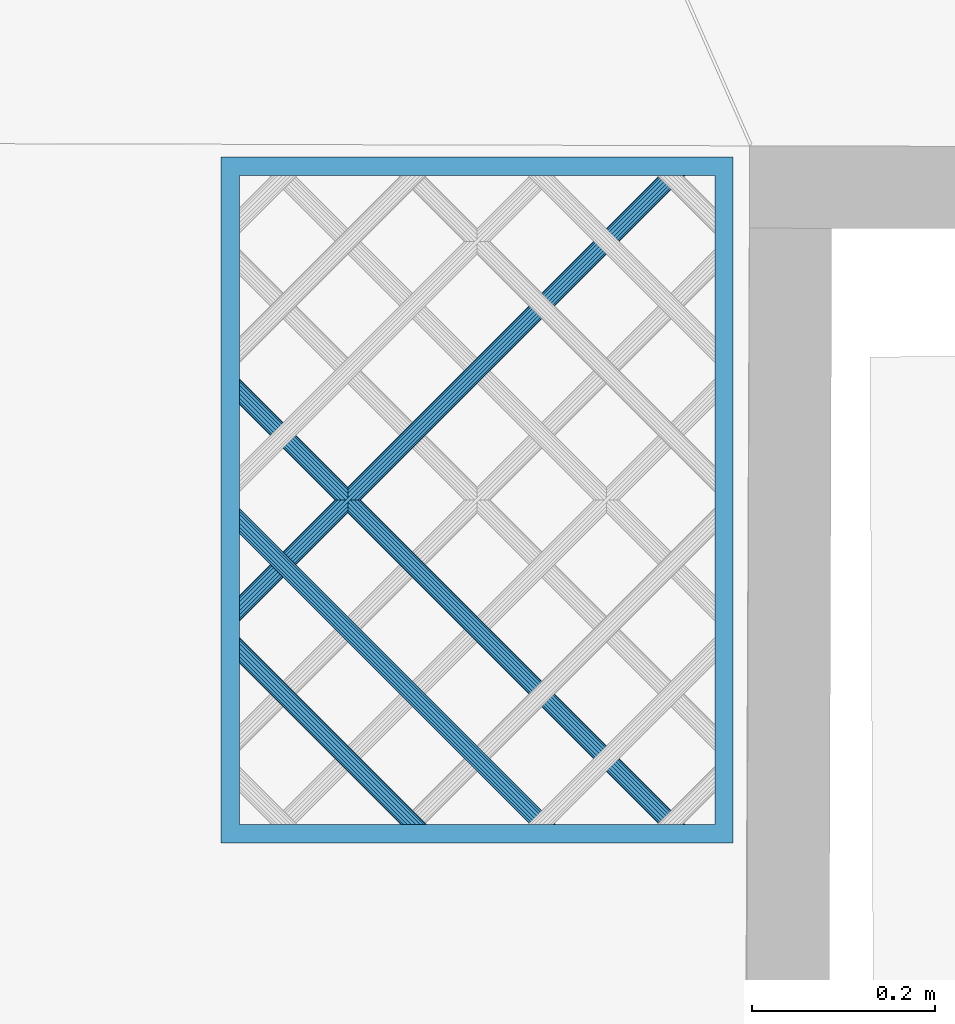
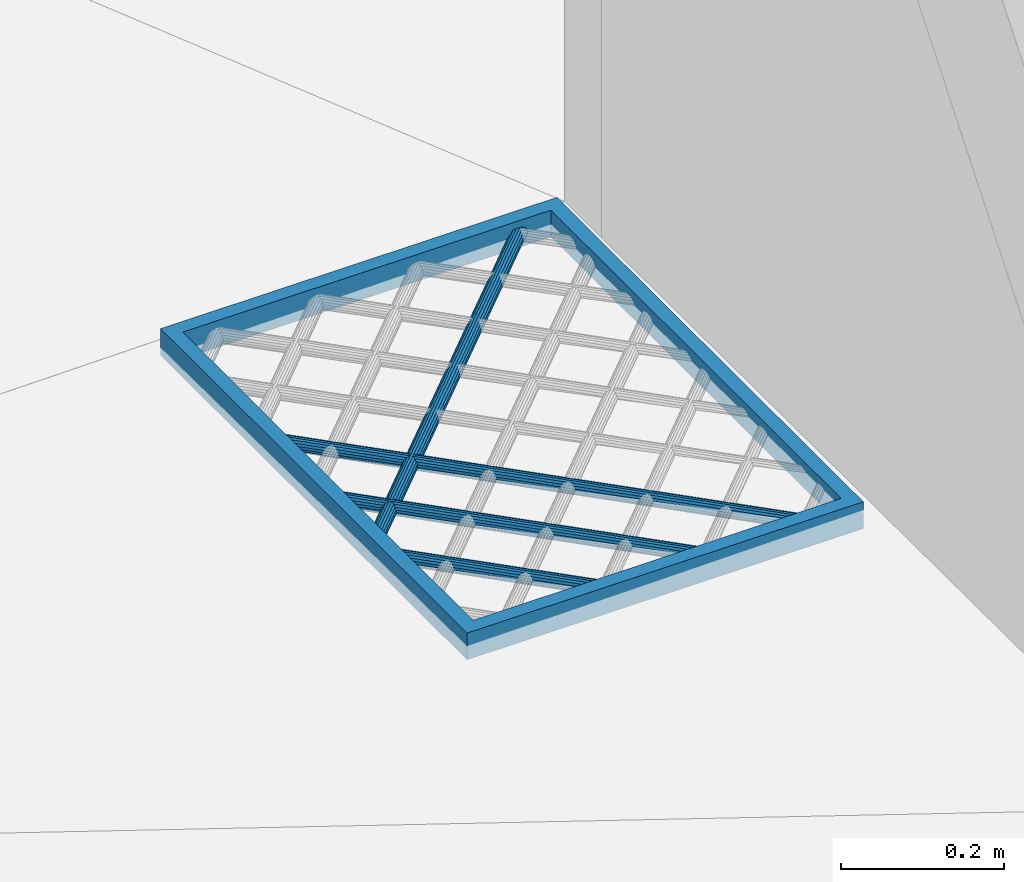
# One storey, part 52 of 133: 5 members, 1 element without a shape of its own.
"""IFC2X3 building model written with IfcOpenShell, lengths in centimetres."""

from ifc_helpers import new_model, entity, si_unit, converted_unit, direction, frame, origin, origin_with_axes, place, context, subcontext, project, spatial, faceted_brep, material, type_object, element, aggregate, save


model = new_model("IFC2X3")

# Units and contexts
model_context = context("Model", 3, precision=0.0001, world=origin(), true_north=direction((0.225632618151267, 0.974212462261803, 0.0)))
body_context = subcontext(model_context, "Body", "Model", "MODEL_VIEW")
ifc_project = project(units=[si_unit("LENGTHUNIT", "METRE", prefix="CENTI"), si_unit("AREAUNIT", "SQUARE_METRE", prefix="CENTI"), si_unit("VOLUMEUNIT", "CUBIC_METRE", prefix="CENTI"), converted_unit("PLANEANGLEUNIT", "DEGREE", entity("IfcRatioMeasure", 0.0174532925), si_unit("PLANEANGLEUNIT", "RADIAN"), dimensions=[0, 0, 0, 0, 0, 0, 0])], contexts=[model_context])

# Site, building, storey
site_placement = place(None, origin_with_axes())
site = spatial("IfcSite", under=ifc_project, at=site_placement, Name="Default Site", CompositionType="ELEMENT")
building_placement = place(site_placement, origin_with_axes())
building = spatial("IfcBuilding", under=site, at=building_placement, Name="Default Building", CompositionType="ELEMENT")
storey_placement = place(building_placement, frame((0.0, 0.0, -291.400371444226), z_axis=(0.0, 0.0, 1.0), x_axis=(1.0, 0.0, 0.0)))
storey = spatial("IfcBuildingStorey", under=building, at=storey_placement, Name="Rez-de-Jardin", CompositionType="ELEMENT", Elevation=-291.400371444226)

# Assembly, members
building_element_proxy_type = type_object("IfcBuildingElementProxyType", Name="Type Object", PredefinedType="NOTDEFINED")
assembly_placement = place(storey_placement, frame((-1322.94034957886, 694.801568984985, 108.0), z_axis=(0.0, 1.0, -2.38697950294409e-15), x_axis=(1.0, 0.0, 0.0)))
assembly = element("IfcElementAssembly", 1, at=assembly_placement, inside=storey, type_object=building_element_proxy_type, Name="Panneau 303645", ObjectType="Precast panel", PredefinedType="USERDEFINED")
ifc_material = material(Name="Aluminium satiné")
member_1_placement = place(assembly_placement, frame((1.99999995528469, 1.99999995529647, 73.0000019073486), z_axis=(0.999999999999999, 1.74961240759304e-31, -7.32981747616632e-17), x_axis=(0.0, 1.0, 2.38697950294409e-15)))
member_1 = element("IfcMember", 2, at=member_1_placement, material=ifc_material, Name="4294966983", context=body_context, shape_type="Brep", body=[
    faceted_brep([(-3.46944695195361e-15, 0.0, -5.20417042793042e-15), (-3.99999991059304, 0.0, -5.20417042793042e-15), (-3.99999991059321, -71.0000019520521, -5.20417042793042e-15), (-1.7277845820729e-13, -71.0000019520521, -5.20417042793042e-15), (-3.99999991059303, 1.99999809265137, -1.99999995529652), (-3.99999991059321, -73.0000019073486, -1.99999995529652), (-3.99999991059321, -71.0000019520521, 0.0), (1.38777878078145e-15, 1.99999809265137, -1.99999995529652), (-1.77635683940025e-13, -73.0000019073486, -1.99999995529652), (-3.38617567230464e-15, -1.98766837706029e-31, -5.20417042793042e-15), (-1.72861725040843e-13, -71.0000019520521, -1.45684685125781e-47), (-1.7277845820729e-13, -71.0000019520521, 0.0), (-3.99999991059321, -71.0000019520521, -1.03599590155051e-30), (-3.99999991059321, -71.0000019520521, 52.0000021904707), (-1.7277845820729e-13, -71.0000019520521, 52.0000021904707), (-3.99999991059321, -73.0000019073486, 54.0000002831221), (-1.77635683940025e-13, -73.0000019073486, 54.0000002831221), (-1.72861725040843e-13, -71.0000019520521, -1.45684685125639e-47), (-1.72861725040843e-13, -71.0000019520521, 52.0000021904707), (-3.99999991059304, -2.5498227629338e-30, 52.0000021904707), (-3.46944695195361e-15, -2.5498227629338e-30, 52.0000021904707), (-3.99999991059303, 1.99999809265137, 54.0000002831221), (-3.99999991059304, 0.0, 52.0000021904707), (1.38777878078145e-15, 1.99999809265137, 54.0000002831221), (-3.38617567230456e-15, -1.98766837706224e-31, 52.0000021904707), (1.38777878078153e-15, 1.99999809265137, 54.0000002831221), (-3.46944695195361e-15, 0.0, 52.0000021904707), (-3.99999991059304, 9.54791779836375e-15, 52.0000021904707), (-3.99999991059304, -5.36581784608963e-15, -5.20417042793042e-15), (-3.46944695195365e-15, -1.49137356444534e-14, -5.20417042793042e-15), (1.38777878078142e-15, 1.99999809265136, 54.0000002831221), (1.38777878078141e-15, 1.99999809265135, -1.99999995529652), (-3.99999991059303, 1.99999809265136, -1.99999995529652), (-3.38617567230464e-15, -1.9876683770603e-31, 52.0000021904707), (-3.38617567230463e-15, -1.98766837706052e-31, -5.20417042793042e-15), (1.38777878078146e-15, 1.99999809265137, -1.99999995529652)], [[[0, 1, 2, 3]], [[1, 4, 5, 6]], [[4, 7, 8, 5]], [[7, 9, 10, 8]], [[11, 12, 13, 14]], [[6, 5, 15, 13]], [[5, 8, 16, 15]], [[8, 17, 18, 16]], [[14, 13, 19, 20]], [[13, 15, 21, 22]], [[15, 16, 23, 21]], [[16, 18, 24, 25]], [[26, 27, 28, 29]], [[22, 21, 4, 1]], [[21, 30, 31, 32]], [[23, 33, 34, 35]]]),
])
member_2_placement = place(assembly_placement, frame((50.6867885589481, 0.342020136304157, 73.0000019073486), z_axis=(1.16937209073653e-15, -1.43220862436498e-15, 1.0), x_axis=(0.632448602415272, -0.774602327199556, -1.84895987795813e-15)))
member_2 = element("IfcMember", 3, at=member_2_placement, material=ifc_material, Name="4294966979", context=body_context, shape_type="Brep", body=[
    faceted_brep([(-4.9960036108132e-14, -1.27675647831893e-13, -8.88178419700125e-14), (-0.388286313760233, -1.22124532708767e-13, -8.95357677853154e-14), (-0.799164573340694, -0.150256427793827, -9.02954652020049e-14), (-1.18306622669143, -0.432633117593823, -9.10052839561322e-14), (-1.49369412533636, -0.813079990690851, -9.15796224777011e-14), (-1.693581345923, -1.24570878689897, -9.19492059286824e-14), (-1.75861481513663, -1.67833345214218, -9.20694502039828e-14), (-1.68095451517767, -2.05877801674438, -9.19258594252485e-14), (-1.46996349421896, -2.34115037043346, -9.15357454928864e-14), (-1.15109532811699, -2.49139833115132, -9.09461710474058e-14), (-0.762805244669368, -2.49139371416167, -9.02282382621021e-14), (-0.351930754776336, -2.34114190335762, -8.94685478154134e-14), (0.0319746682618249, -2.05876059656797, -8.87587220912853e-14), (0.342602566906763, -1.67831372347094, -8.81843835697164e-14), (0.542486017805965, -1.24568954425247, -8.78148070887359e-14), (0.607523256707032, -0.813060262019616, -8.76945558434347e-14), (0.529859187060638, -0.432620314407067, -8.78381535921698e-14), (0.318870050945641, -0.150245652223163, -8.82282640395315e-14), (-30.5269618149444, -37.9292099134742, -48.772080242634), (-30.262032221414, -38.1455200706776, -48.6867919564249), (-30.0290570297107, -38.3357400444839, -48.4412163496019), (-29.8561365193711, -38.4769264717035, -48.0649724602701), (-29.7641274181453, -38.5520502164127, -47.6034432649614), (-29.7641274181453, -38.5520502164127, -47.1122920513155), (-29.8561365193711, -38.4769264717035, -46.6507583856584), (-30.0290570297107, -38.3357400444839, -46.2745159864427), (-30.262032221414, -38.1455200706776, -46.0289388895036), (-30.5269618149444, -37.9292099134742, -45.9436535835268), (-30.7918914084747, -37.7128997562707, -46.0289388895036), (-31.024866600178, -37.5226797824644, -46.2745159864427), (-31.1977871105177, -37.3814933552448, -46.6507583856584), (-31.2897962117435, -37.3063696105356, -47.1122920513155), (-31.2897962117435, -37.3063696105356, -47.6034432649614), (-31.1977871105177, -37.3814933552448, -48.0649724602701), (-31.024866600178, -37.5226797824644, -48.4412163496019), (-30.7918914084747, -37.7128997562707, -48.6867919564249), (0.318870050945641, -0.150245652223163, -8.88178419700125e-14), (0.529859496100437, -0.432620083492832, -3.74318581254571e-07), (-30.2620332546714, -38.1455208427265, -48.6867907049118), (-30.5269631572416, -37.9292109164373, -48.7720786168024), (0.529859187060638, -0.432620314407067, -8.88178419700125e-14), (0.607521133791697, -0.813060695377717, 1.67831494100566e-06), (-30.029058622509, -38.3357403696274, -48.4412150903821), (-30.2620338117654, -38.1455203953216, -48.6867906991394), (0.607523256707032, -0.813060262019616, -8.88178419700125e-14), (0.542487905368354, -1.24568982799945, -9.73995209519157e-07), (-29.8561359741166, -38.4769265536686, -48.0649727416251), (-30.0290565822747, -38.3357401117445, -48.441216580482), (0.542486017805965, -1.24568954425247, -8.88178419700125e-14), (0.342601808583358, -1.67831337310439, 2.08205745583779e-07), (-29.7641285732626, -38.5520496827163, -47.6034429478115), (-29.8561372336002, -38.4769261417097, -48.0649722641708), (0.342602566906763, -1.67831372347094, -8.88178419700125e-14), (0.0319746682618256, -2.05876059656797, -8.88178419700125e-14), (0.0319746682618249, -2.05876059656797, -8.88178419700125e-14), (-0.351931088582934, -2.34114144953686, -1.40415192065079e-07), (-29.8561365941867, -38.4769263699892, -46.6507584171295), (-29.7641271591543, -38.5520505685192, -47.1122919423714), (-0.351930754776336, -2.34114190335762, -8.88178419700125e-14), (-0.762805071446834, -2.49139418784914, 2.57364975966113e-07), (-30.0290565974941, -38.3357412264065, -46.2745153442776), (-29.8561362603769, -38.4769271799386, -46.6507580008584), (-0.762805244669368, -2.49139371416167, -8.88178419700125e-14), (-1.1510953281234, -2.49139761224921, -5.56859275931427e-07), (-30.2620322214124, -38.1455202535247, -46.0289387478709), (-30.0290570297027, -38.3357409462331, -46.2745152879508), (-1.15109532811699, -2.49139833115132, -8.88178419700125e-14), (-1.46996396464, -2.34115136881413, 1.07086503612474e-06), (-30.5269626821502, -37.9292117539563, -45.9436516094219), (-30.2620326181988, -38.1455209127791, -46.0289379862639), (-1.46996349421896, -2.34115037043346, -8.88178419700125e-14), (-1.68095363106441, -2.05877735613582, -1.07086521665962e-06), (-30.7918912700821, -37.7128996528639, -46.028939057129), (-30.5269625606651, -37.9292104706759, -45.943652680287), (-1.68095451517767, -2.05877801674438, -8.88178419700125e-14), (-1.75861551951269, -1.67833359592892, 5.56859104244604e-07), (-31.0248681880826, -37.5226801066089, -46.2745147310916), (-30.7918922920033, -37.7128999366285, -46.0289381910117), (-1.75861481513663, -1.67833345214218, -8.88178419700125e-14), (-1.6935808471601, -1.24570886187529, -2.57365158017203e-07), (-31.1977873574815, -37.3814933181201, -46.6507582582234), (-31.0248673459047, -37.5226796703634, -46.2745156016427), (-1.693581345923, -1.24570878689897, -8.88178419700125e-14), (-1.49369463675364, -0.813079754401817, 1.40415015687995e-07), (-31.2897971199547, -37.3063691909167, -47.1122918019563), (-31.1977875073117, -37.381493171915, -46.6507582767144), (-1.49369412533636, -0.813079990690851, -8.88178419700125e-14), (-1.18306622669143, -0.432633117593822, -8.88178419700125e-14), (-1.18306622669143, -0.432633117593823, -8.88178419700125e-14), (-0.799165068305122, -0.15025575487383, -2.0820592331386e-07), (-31.1977871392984, -37.3814933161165, -48.0649724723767), (-31.2897959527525, -37.3063699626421, -47.6034431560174), (-0.799164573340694, -0.150256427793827, -8.88178419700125e-14), (-0.388285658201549, -1.79266488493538e-06, 9.73995034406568e-07), (-31.0248661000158, -37.5226811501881, -48.4412156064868), (-31.1977866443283, -37.381494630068, -48.06497176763), (-0.388286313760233, -1.22124532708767e-13, -8.88178419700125e-14), (-1.9394731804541e-11, 2.16669523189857e-06, -1.67831512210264e-06), (-30.7918914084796, -37.7128992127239, -48.6867923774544), (-31.0248666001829, -37.5226792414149, -48.4412167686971), (0.318869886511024, -0.150246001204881, 3.74318405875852e-07), (-30.5269626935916, -37.9292117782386, -48.7720782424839), (-30.7918921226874, -37.7129012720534, -48.6867903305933)], [[[0, 1, 2, 3, 4, 5, 6, 7, 8, 9, 10, 11, 12, 13, 14, 15, 16, 17]], [[18, 19, 20, 21, 22, 23, 24, 25, 26, 27, 28, 29, 30, 31, 32, 33, 34, 35]], [[36, 37, 38, 39]], [[40, 41, 42, 43]], [[44, 45, 46, 47]], [[48, 49, 50, 51]], [[52, 53, 23, 22]], [[54, 55, 56, 57]], [[58, 59, 60, 61]], [[62, 63, 64, 65]], [[66, 67, 68, 69]], [[70, 71, 72, 73]], [[74, 75, 76, 77]], [[78, 79, 80, 81]], [[82, 83, 84, 85]], [[86, 87, 32, 31]], [[88, 89, 90, 91]], [[92, 93, 94, 95]], [[96, 97, 98, 99]], [[0, 100, 101, 102]]]),
])
member_3_placement = place(assembly_placement, frame((48.028936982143, 0.342020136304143, 1.99999995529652), z_axis=(1.16937776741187e-15, 1.43218081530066e-15, -1.0), x_axis=(-0.632457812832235, -0.774594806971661, -1.84894192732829e-15)))
member_3 = element("IfcMember", 4, at=member_3_placement, material=ifc_material, Name="4294966968", context=body_context, shape_type="Brep", body=[
    faceted_brep([(-1.49880108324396e-13, 4.9960036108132e-14, 5.55111512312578e-14), (-0.388290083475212, 4.44089209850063e-14, 5.62290770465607e-14), (-0.799166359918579, -0.150246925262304, 5.69887634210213e-14), (-1.18307514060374, -0.432623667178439, 5.76985884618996e-14), (-1.49370756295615, -0.813066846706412, 5.82729297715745e-14), (-1.69359615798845, -1.24568864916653, 5.86425121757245e-14), (-1.75863854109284, -1.67831715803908, 5.87627717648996e-14), (-1.68097899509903, -2.05875802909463, 5.86191837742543e-14), (-1.46999321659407, -2.34113520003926, 5.82290833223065e-14), (-1.15112495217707, -2.49138464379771, 5.76395144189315e-14), (-0.762838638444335, -2.49138926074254, 5.69215955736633e-14), (-0.35195859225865, -2.34113771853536, 5.6161902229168e-14), (0.0319464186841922, -2.05876559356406, 5.54520841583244e-14), (0.3425788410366, -1.67832241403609, 5.48777428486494e-14), (0.542471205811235, -1.24569599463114, 5.45081534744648e-14), (0.607509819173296, -0.813072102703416, 5.43879008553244e-14), (0.529854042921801, -0.43262661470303, 5.4531481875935e-14), (0.318866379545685, -0.150251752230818, 5.49215858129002e-14), (29.3762878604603, 35.4374622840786, -45.9436517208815), (29.6412148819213, 35.2211489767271, -46.0289370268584), (29.8741878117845, 35.0309262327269, -46.2745141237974), (30.0471066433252, 34.8897377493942, -46.6507565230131), (30.1391148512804, 34.8146129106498, -47.1122901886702), (30.1391148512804, 34.8146129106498, -47.6034414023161), (30.0471066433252, 34.8897377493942, -48.0649691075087), (29.8741878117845, 35.0309262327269, -48.4412174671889), (29.6412148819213, 35.2211489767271, -48.6867886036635), (29.3762878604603, 35.4374622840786, -48.7720768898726), (29.1113608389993, 35.6537755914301, -48.6867886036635), (28.878387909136, 35.8439983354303, -48.4412174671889), (28.7054690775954, 35.985186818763, -48.0649691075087), (28.6134608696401, 36.0603116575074, -47.6034414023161), (28.6134608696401, 36.0603116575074, -47.1122901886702), (28.7054690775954, 35.985186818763, -46.6507565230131), (28.878387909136, 35.8439983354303, -46.2745141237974), (29.1113608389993, 35.6537755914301, -46.0289370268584), (0.318866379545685, -0.150251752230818, 5.51642065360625e-14), (0.529853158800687, -0.432627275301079, -1.07086506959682e-06), (29.6412139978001, 35.221148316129, -46.0289380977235), (0.529854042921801, -0.43262661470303, 5.48172618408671e-14), (0.607510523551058, -0.813071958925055, 5.56859244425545e-07), (29.8741885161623, 35.0309263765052, -46.2745135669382), (29.6412148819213, 35.2211489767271, -46.0289370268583), (0.607509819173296, -0.813072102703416, 5.44703171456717e-14), (0.542470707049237, -1.2456959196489, -2.57365012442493e-07), (30.0471061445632, 34.8897378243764, -46.6507567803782), (0.542471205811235, -1.24569599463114, 5.44703171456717e-14), (0.342579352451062, -1.6783226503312, 1.40415158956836e-07), (30.1391153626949, 34.8146126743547, -47.1122900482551), (0.3425788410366, -1.67832241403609, 5.51642065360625e-14), (0.0319464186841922, -2.05876559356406, 5.55111512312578e-14), (-0.35195809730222, -2.34113839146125, -2.08205779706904e-07), (30.0471071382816, 34.8897370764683, -48.0649693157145), (-0.35195859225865, -2.34113771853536, 5.62050406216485e-14), (-0.762839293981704, -2.49138746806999, 9.7399518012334e-07), (29.8741871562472, 35.0309280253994, -48.4412164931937), (-0.762838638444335, -2.49138926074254, 5.68989300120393e-14), (-1.15112495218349, -2.49138681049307, -1.67831497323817e-06), (29.6412148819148, 35.2211468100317, -48.6867902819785), (-1.15112495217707, -2.49138464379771, 5.79397640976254e-14), (-1.4699930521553, -2.3411348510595, 3.74318551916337e-07), (29.376288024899, 35.4374626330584, -48.7720765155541), (-1.46999321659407, -2.34113520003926, 5.82867087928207e-14), (-1.68097930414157, -2.05875826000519, -3.74318434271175e-07), (29.1113605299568, 35.6537753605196, -48.686788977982), (-1.68097899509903, -2.05875802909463, 5.86336534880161e-14), (-1.75863641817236, -1.67831672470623, 1.67831508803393e-06), (28.8783900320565, 35.8439987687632, -48.4412157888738), (-1.75863854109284, -1.67831715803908, 5.89805981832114e-14), (-1.69359804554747, -1.2456883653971, -9.73995064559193e-07), (28.7054671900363, 35.9851871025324, -48.0649700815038), (-1.69359615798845, -1.24568864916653, 5.89805981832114e-14), (-1.49370680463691, -0.813067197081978, 2.08205893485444e-07), (28.6134616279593, 36.0603113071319, -47.6034411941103), (-1.49370756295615, -0.813066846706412, 5.82867087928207e-14), (-1.18307514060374, -0.432623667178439, 5.79397640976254e-14), (-0.799166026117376, -0.150247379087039, -1.40415046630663e-07), (28.7054694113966, 35.9851863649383, -46.6507566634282), (-0.799166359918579, -0.150246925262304, 5.72458747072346e-14), (-0.388290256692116, 4.73689576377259e-07, 2.57365124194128e-07), (28.8783877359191, 35.8439988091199, -46.2745138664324), (-0.388290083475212, 4.44089209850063e-14, 5.65519853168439e-14), (-2.27950546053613e-12, -7.18902064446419e-07, -5.56859135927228e-07), (29.1113608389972, 35.653774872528, -46.0289375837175), (0.318866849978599, -0.150250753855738, 1.07086517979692e-06), (29.3762883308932, 35.4374632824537, -45.9436506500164)], [[[0, 1, 2, 3, 4, 5, 6, 7, 8, 9, 10, 11, 12, 13, 14, 15, 16, 17]], [[18, 19, 20, 21, 22, 23, 24, 25, 26, 27, 28, 29, 30, 31, 32, 33, 34, 35]], [[36, 37, 38, 18]], [[39, 40, 41, 42]], [[43, 44, 45, 20]], [[46, 47, 48, 21]], [[49, 50, 23, 22]], [[50, 51, 52, 23]], [[53, 54, 55, 24]], [[56, 57, 58, 25]], [[59, 60, 61, 26]], [[62, 63, 64, 27]], [[65, 66, 67, 28]], [[68, 69, 70, 29]], [[71, 72, 73, 30]], [[74, 75, 32, 31]], [[75, 76, 77, 32]], [[78, 79, 80, 33]], [[81, 82, 83, 34]], [[0, 84, 85, 35]]]),
])
member_4_placement = place(assembly_placement, frame((33.8868021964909, 0.342020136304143, 1.99999995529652), z_axis=(1.16937776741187e-15, 1.43218081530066e-15, -1.0), x_axis=(-0.632457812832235, -0.774594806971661, -1.84894192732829e-15)))
member_4 = element("IfcMember", 5, at=member_4_placement, material=ifc_material, Name="4294966967", context=body_context, shape_type="Brep", body=[
    faceted_brep([(-1.4432899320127e-13, 1.27675647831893e-13, 3.88578058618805e-14), (-0.38829008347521, 1.22124532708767e-13, 3.95757316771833e-14), (-0.799166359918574, -0.150246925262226, 4.0335418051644e-14), (-1.18307325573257, -0.432621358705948, 4.10452396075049e-14), (-1.49370567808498, -0.813064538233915, 4.16195809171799e-14), (-1.69359615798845, -1.24568864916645, 4.19891668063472e-14), (-1.75863665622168, -1.67831484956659, 4.21094229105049e-14), (-1.68097899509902, -2.05875802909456, 4.1965838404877e-14), (-1.46999321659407, -2.34113520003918, 4.15757379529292e-14), (-1.15112495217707, -2.49138464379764, 4.09861690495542e-14), (-0.762836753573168, -2.49138695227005, 4.02682467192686e-14), (-0.351958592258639, -2.34113771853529, 3.95085568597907e-14), (0.0319483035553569, -2.05876328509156, 3.87987353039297e-14), (0.342580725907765, -1.6783201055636, 3.82243939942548e-14), (0.542471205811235, -1.24569599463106, 3.78548081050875e-14), (0.607509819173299, -0.813072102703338, 3.77345554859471e-14), (0.529854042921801, -0.432626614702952, 3.78781365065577e-14), (0.318868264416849, -0.150249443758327, 3.82682369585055e-14), (20.4319842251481, 24.4830381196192, -31.8015139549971), (20.696911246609, 24.2667248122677, -31.8868022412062), (20.9298841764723, 24.0765020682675, -32.1323793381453), (21.102803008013, 23.9353135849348, -32.508621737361), (21.1948112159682, 23.8601887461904, -32.9701524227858), (21.1948112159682, 23.8601887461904, -33.4613036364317), (21.102803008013, 23.9353135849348, -33.9228343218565), (20.9298841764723, 24.0765020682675, -34.2990797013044), (20.696911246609, 24.2667248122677, -34.5446538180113), (20.4319842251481, 24.4830381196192, -34.6299421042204), (20.1670572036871, 24.6993514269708, -34.5446538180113), (19.9340842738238, 24.8895741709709, -34.2990797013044), (19.7611654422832, 25.0307626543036, -33.9228343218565), (19.6691572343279, 25.105887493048, -33.4613036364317), (19.6691572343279, 25.105887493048, -32.9701524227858), (19.7611654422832, 25.0307626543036, -32.508621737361), (19.9340842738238, 24.8895741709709, -32.1323793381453), (20.1670572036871, 24.6993514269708, -31.8868022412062), (0.318868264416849, -0.150249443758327, 3.85108611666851e-14), (0.529854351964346, -0.432626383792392, 3.74318531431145e-07), (20.6969115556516, 24.2667250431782, -31.8868018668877), (0.529854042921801, -0.432626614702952, 3.81639164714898e-14), (0.607510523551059, -0.813071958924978, 5.56859226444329e-07), (20.9298848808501, 24.0765022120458, -32.1323787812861), (0.607509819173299, -0.813072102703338, 3.78169717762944e-14), (0.542470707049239, -1.24569591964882, -2.5736502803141e-07), (21.102802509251, 23.935313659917, -32.508621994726), (0.542471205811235, -1.24569599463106, 3.78169717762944e-14), (0.342580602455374, -1.67832004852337, -3.38953274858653e-08), (21.1948110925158, 23.8601888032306, -32.9701524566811), (0.342580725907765, -1.6783201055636, 3.85108611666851e-14), (0.0319483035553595, -2.05876328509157, 3.92047505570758e-14), (0.0319483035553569, -2.05876328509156, 3.92047505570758e-14), (-0.351958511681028, -2.34113782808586, -3.38953253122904e-08), (21.1028030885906, 23.9353134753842, -33.9228343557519), (-0.351958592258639, -2.34113771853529, 3.95516952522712e-14), (-0.762836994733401, -2.49138629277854, 3.58315068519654e-07), (20.9298839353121, 24.076502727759, -34.2990793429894), (-0.762836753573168, -2.49138695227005, 4.02455846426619e-14), (-1.15112495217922, -2.49138536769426, -5.6072787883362e-07), (20.6969112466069, 24.2667240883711, -34.5446543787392), (-1.15112495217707, -2.49138464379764, 4.1286418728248e-14), (-1.4699930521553, -2.34113485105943, 3.74318532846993e-07), (20.4319843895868, 24.483038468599, -34.6299417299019), (-1.46999321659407, -2.34113520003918, 4.16333634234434e-14), (-1.68097930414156, -2.05875826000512, -3.7431845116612e-07), (20.1670568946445, 24.6993511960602, -34.5446541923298), (-1.68097899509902, -2.05875802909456, 4.19803081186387e-14), (-1.75863594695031, -1.67831470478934, 5.60727963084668e-07), (19.9340849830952, 24.8895743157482, -34.2990791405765), (-1.75863665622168, -1.67831484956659, 4.23272528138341e-14), (-1.69359685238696, -1.24568854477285, -3.58314986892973e-07), (19.7611647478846, 25.0307627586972, -33.9228346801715), (-1.69359615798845, -1.24568864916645, 4.23272528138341e-14), (-1.49370555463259, -0.813064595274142, 3.3895408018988e-08), (19.6691573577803, 25.1058874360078, -33.4613036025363), (-1.49370567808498, -0.813064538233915, 4.19803081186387e-14), (-1.18307325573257, -0.432621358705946, 4.1286418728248e-14), (-1.18307325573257, -0.432621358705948, 4.1286418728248e-14), (-0.799166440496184, -0.150246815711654, 3.38954053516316e-08), (19.7611653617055, 25.0307627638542, -32.5086217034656), (-0.799166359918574, -0.150246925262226, 4.05925293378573e-14), (-0.388290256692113, 4.73689653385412e-07, 2.57365107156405e-07), (19.9340841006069, 24.8895746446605, -32.1323790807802), (-0.38829008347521, 1.22124532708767e-13, 3.98986399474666e-14), (-2.27395434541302e-12, -7.18901986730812e-07, -5.56859152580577e-07), (20.167057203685, 24.6993507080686, -31.8868027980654), (19.9340842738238, 24.889574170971, -32.1323793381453), (0.318868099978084, -0.150249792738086, -3.74318452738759e-07), (20.4319840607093, 24.4830377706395, -31.8015143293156), (20.1670572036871, 24.6993514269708, -31.8868022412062)], [[[0, 1, 2, 3, 4, 5, 6, 7, 8, 9, 10, 11, 12, 13, 14, 15, 16, 17]], [[18, 19, 20, 21, 22, 23, 24, 25, 26, 27, 28, 29, 30, 31, 32, 33, 34, 35]], [[36, 37, 38, 18]], [[39, 40, 41, 19]], [[42, 43, 44, 20]], [[45, 46, 47, 21]], [[48, 49, 23, 22]], [[50, 51, 52, 23]], [[53, 54, 55, 24]], [[56, 57, 58, 25]], [[59, 60, 61, 26]], [[62, 63, 64, 27]], [[65, 66, 67, 28]], [[68, 69, 70, 29]], [[71, 72, 73, 30]], [[74, 75, 32, 31]], [[76, 77, 78, 32]], [[79, 80, 81, 33]], [[82, 83, 84, 85]], [[0, 86, 87, 88]]]),
])
member_5_placement = place(assembly_placement, frame((19.7446674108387, 0.342020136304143, 1.99999995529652), z_axis=(1.16937634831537e-15, 1.43218776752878e-15, -1.0), x_axis=(-0.632455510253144, -0.774596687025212, -1.84894641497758e-15)))
member_5 = element("IfcMember", 6, at=member_5_placement, material=ifc_material, Name="4294966966", context=body_context, shape_type="Brep", body=[
    faceted_brep([(-8.32667268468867e-15, 7.21644966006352e-14, 2.25514051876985e-14), (-0.388289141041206, 7.21644966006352e-14, 2.32693310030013e-14), (-0.799165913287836, -0.150249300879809, 2.40290201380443e-14), (-1.18307196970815, -0.43262487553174, 2.47388418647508e-14), (-1.49370326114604, -0.813068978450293, 2.53131824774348e-14), (-1.69359245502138, -1.24569368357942, 2.56827668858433e-14), (-1.75863072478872, -1.67831892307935, 2.5803019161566e-14), (-1.68097287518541, -2.05876302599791, 2.56594339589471e-14), (-1.46998625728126, -2.34113956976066, 2.5269331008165e-14), (-1.15111754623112, -2.49138806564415, 2.46797598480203e-14), (-0.762828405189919, -2.49138806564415, 2.39618340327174e-14), (-0.35195163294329, -2.34113876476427, 2.32021448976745e-14), (0.0319544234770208, -2.05876319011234, 2.2492323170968e-14), (0.34258571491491, -1.67831908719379, 2.1917982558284e-14), (0.542474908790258, -1.24569438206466, 2.15483981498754e-14), (0.607513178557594, -0.813069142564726, 2.14281458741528e-14), (0.529855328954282, -0.432625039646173, 2.15717310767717e-14), (0.318868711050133, -0.150248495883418, 2.19618340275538e-14), (11.4876403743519, 13.5286481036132, -17.6593791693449), (11.752568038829, 13.3123355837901, -17.744667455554), (11.9855415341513, 13.1221135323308, -17.990243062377), (12.1584607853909, 12.9809255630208, -18.3664869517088), (12.2504692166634, 12.9058009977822, -18.8280176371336), (12.2504692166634, 12.9058009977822, -19.3191688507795), (12.1584607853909, 12.9809255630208, -19.7806995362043), (11.9855415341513, 13.1221135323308, -20.1569434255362), (11.752568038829, 13.3123355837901, -20.4025190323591), (11.4876403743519, 13.5286481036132, -20.4878073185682), (11.2227127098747, 13.7449606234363, -20.4025190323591), (10.9897392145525, 13.9351826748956, -20.1569434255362), (10.8168199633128, 14.0763706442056, -19.7806995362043), (10.7248115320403, 14.1514952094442, -19.3191688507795), (10.7248115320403, 14.1514952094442, -18.8280176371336), (10.8168199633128, 14.0763706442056, -18.3664869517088), (10.9897392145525, 13.9351826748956, -17.990243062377), (11.2227127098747, 13.7449606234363, -17.744667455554), (0.318868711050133, -0.150248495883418, 2.18575157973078e-14), (0.52985563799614, -0.432624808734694, 3.74318514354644e-07), (11.7525683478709, 13.3123358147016, -17.7446670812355), (0.529855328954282, -0.432625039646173, 2.18575157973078e-14), (0.607513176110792, -0.813069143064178, -1.93434560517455e-09), (11.9855415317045, 13.1221135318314, -17.9902430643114), (0.607513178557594, -0.813069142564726, 2.1163626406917e-14), (0.542475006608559, -1.24569439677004, 5.04750023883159e-08), (12.1584608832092, 12.9809255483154, -18.3664869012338), (0.542474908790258, -1.24569438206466, 2.15105711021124e-14), (0.342585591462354, -1.67831903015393, -3.3895342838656e-08), (12.2504690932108, 12.905801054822, -18.828017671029), (0.34258571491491, -1.67831908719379, 2.18575157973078e-14), (0.03195442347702, -2.05876319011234, 2.25514051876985e-14), (0.0319544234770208, -2.05876319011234, 2.25514051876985e-14), (-0.351951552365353, -2.3411388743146, -3.38953421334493e-08), (12.1584608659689, 12.9809254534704, -19.7806995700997), (-0.35195163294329, -2.34113876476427, 2.28983498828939e-14), (-0.76282843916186, -2.49138797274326, 5.04750046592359e-08), (11.9855415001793, 13.1221136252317, -20.1569433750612), (-0.762828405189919, -2.49138806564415, 2.39391839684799e-14), (-1.15111754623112, -2.49138806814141, -1.93434131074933e-09), (11.752568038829, 13.3123355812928, -20.4025190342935), (-1.15111754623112, -2.49138806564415, 2.4980018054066e-14), (-1.46998609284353, -2.34113922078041, 3.74318517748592e-07), (11.4876405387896, 13.5286484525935, -20.4878069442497), (-1.46998625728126, -2.34113956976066, 2.53269627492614e-14), (-1.68097318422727, -2.05876325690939, -3.74318466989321e-07), (11.2227124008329, 13.7449603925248, -20.4025194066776), (-1.68097287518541, -2.05876302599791, 2.56739074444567e-14), (-1.75863072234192, -1.6783189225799, 1.9343910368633e-09), (10.9897392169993, 13.935182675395, -20.1569434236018), (-1.75863072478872, -1.67831892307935, 2.60208521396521e-14), (-1.69359255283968, -1.24569366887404, -5.04749547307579e-08), (10.8168198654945, 14.076370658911, -19.7806995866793), (-1.69359245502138, -1.24569368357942, 2.56739074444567e-14), (-1.49370313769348, -0.813069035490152, 3.38953909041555e-08), (10.7248116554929, 14.1514951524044, -19.3191688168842), (-1.49370326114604, -0.813068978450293, 2.53269627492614e-14), (-1.18307196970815, -0.43262487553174, 2.46330733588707e-14), (-0.799165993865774, -0.150249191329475, 3.3895389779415e-08), (10.8168198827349, 14.076370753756, -18.3664869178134), (-0.799165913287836, -0.150249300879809, 2.42861286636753e-14), (-0.388289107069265, -9.2900818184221e-08, -5.04749573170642e-08), (10.9897392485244, 13.9351825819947, -17.990243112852), (-0.388289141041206, 7.21644966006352e-14, 2.32452945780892e-14), (-8.35237017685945e-15, 2.49732795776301e-09, 1.93438859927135e-09), (11.2227127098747, 13.7449606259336, -17.7446674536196), (0.318868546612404, -0.150248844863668, -3.74318471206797e-07), (11.4876402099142, 13.5286477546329, -17.6593795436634)], [[[0, 1, 2, 3, 4, 5, 6, 7, 8, 9, 10, 11, 12, 13, 14, 15, 16, 17]], [[18, 19, 20, 21, 22, 23, 24, 25, 26, 27, 28, 29, 30, 31, 32, 33, 34, 35]], [[36, 37, 38, 18]], [[39, 40, 41, 19]], [[42, 43, 44, 20]], [[45, 46, 47, 21]], [[48, 49, 23, 22]], [[50, 51, 52, 23]], [[53, 54, 55, 24]], [[56, 57, 58, 25]], [[59, 60, 61, 26]], [[62, 63, 64, 27]], [[65, 66, 67, 28]], [[68, 69, 70, 29]], [[71, 72, 73, 30]], [[74, 75, 32, 31]], [[75, 76, 77, 32]], [[78, 79, 80, 33]], [[81, 82, 83, 34]], [[0, 84, 85, 35]]]),
])
aggregate(assembly, [member_1, member_2, member_3, member_4, member_5])

save(model, "model.ifc")
